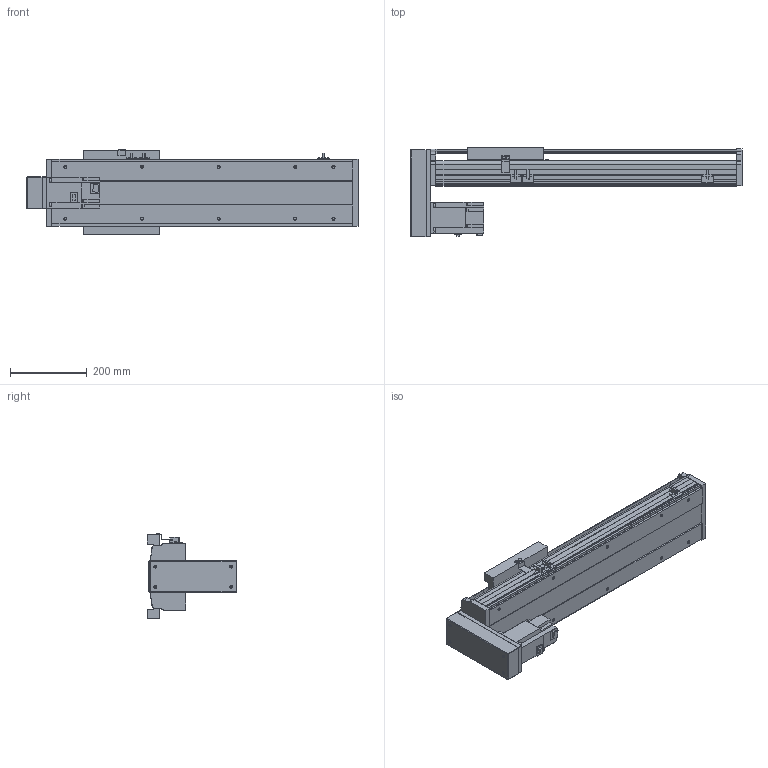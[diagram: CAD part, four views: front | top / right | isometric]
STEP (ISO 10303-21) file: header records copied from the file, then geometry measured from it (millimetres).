
FILE_DESCRIPTION( ( 'STEP AP214' ), '1' );
FILE_NAME( 'x:/temp/worker_27/temp/exporttempdir_6708_422_ADNqg/format_0/PSS200-L10-S450-BM-T75-C1-N(0).stp', '2022-06-06T02:44:36', ( 'License CC BY-ND 4.0' ), ( 'CADENAS' ), ' ', 'PARTsolutions', ' ' );
FILE_SCHEMA( ( 'AUTOMOTIVE_DESIGN { 1 0 10303 214 1 1 1 1 }' ) );
Length unit declared in the file: millimetre
Products named in the file (8): PSS200-L10-S450-BM-T75-C1-N(0); _PSS200-S450-BM-C1-N_body; _PSS200-N_Q; _PSS200-BM-C1-N_sl; _PSS200-N_sensor; _PSS200BM-N_h; _T75-p1; _PSS200-S450-BM-N_S
Assembly tree (9 placements, depth 2):
  PSS200-L10-S450-BM-T75-C1-N(0)
    _PSS200-S450-BM-C1-N_body
    _PSS200-N_Q
    _PSS200-BM-C1-N_sl
    _PSS200-N_sensor  x3
    _PSS200BM-N_h
    _T75-p1
    _PSS200-S450-BM-N_S
Bounding box: 866.85 x 234.45 x 223.86 mm (x, y, z)
Volume: 6801797.4 mm3; surface area: 1467632.8 mm2
Topology: 9 solids, 9 shells, 594 faces, 1589 edges, 1054 vertices
Faces by surface type: plane 452, cylinder 120, cone 18, sphere 4
Full cylindrical faces by diameter (mm): 4 x2, 4.5 x4, 6 x7, 6.647 x14, 7.4 x4, 8 x8, 10 x6, 25 x1, 40 x1, 67 x1
Entity records: 20809 total; most frequent: CARTESIAN_POINT 2885, DIRECTION 2727, ORIENTED_EDGE 2710, EDGE_CURVE 1355, LINE 1071, VECTOR 1071, VERTEX_POINT 938, AXIS2_PLACEMENT_3D 828
